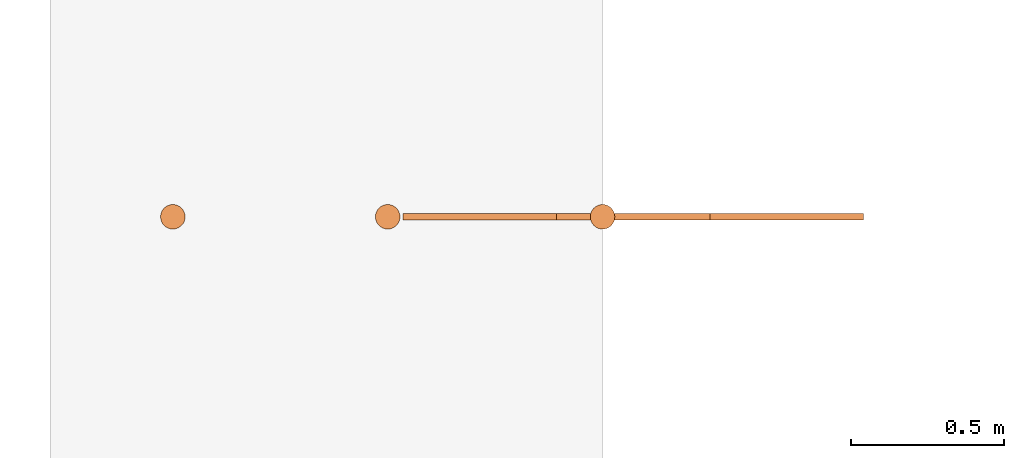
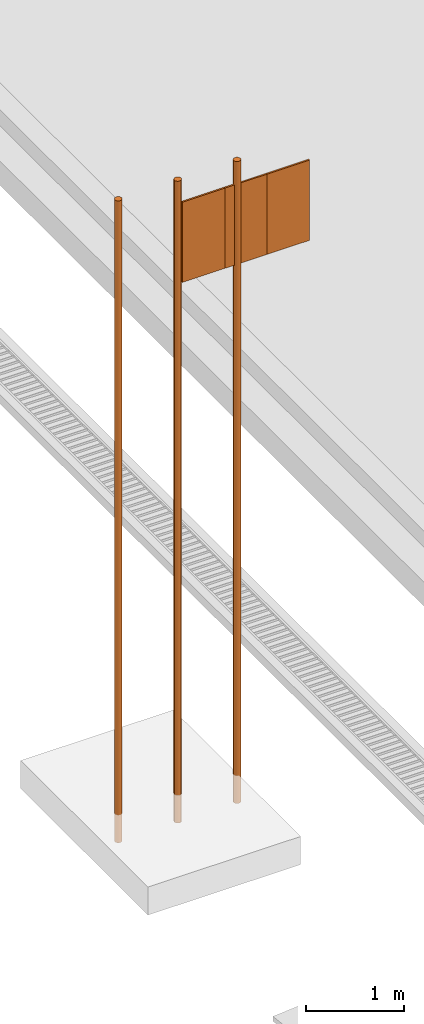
# One storey, part 87 of 90: 6 proxies.
"""IFC2X3 building model written with IfcOpenShell, lengths in metres."""

from ifc_helpers import new_model, si_unit, origin, origin_with_axes, place, context, subcontext, project, spatial, faceted_brep, element, save


model = new_model("IFC2X3")

# Units and contexts
model_context = context("Model", 3, precision=1e-05, world=origin_with_axes())
body_context = subcontext(model_context, "Body", "Model", "MODEL_VIEW")
ifc_project = project(units=[si_unit("LENGTHUNIT", "METRE"), si_unit("AREAUNIT", "SQUARE_METRE"), si_unit("VOLUMEUNIT", "CUBIC_METRE"), si_unit("PLANEANGLEUNIT", "RADIAN")], contexts=[model_context])

# Site, building, storey
site_placement = place(None, origin_with_axes())
site = spatial("IfcSite", under=ifc_project, at=site_placement, Name="Predio Los Mangos - Morales, San Martín", CompositionType="ELEMENT")
building_placement = place(site_placement, origin())
building = spatial("IfcBuilding", under=site, at=building_placement, Name="Hogar de Refugio Temporal", CompositionType="ELEMENT")
storey_placement = place(building_placement, origin())
storey = spatial("IfcBuildingStorey", under=building, at=storey_placement, Name="NIVEL 1 (NPT +0.00)", CompositionType="ELEMENT", Elevation=0.0)

# Proxies
proxy_1_placement = place(storey_placement, origin())
element("IfcBuildingElementProxy", 1, at=proxy_1_placement, inside=storey, Name="Cylinder", ObjectType="Elemento", context=body_context, shape_type="Brep", body=[
    faceted_brep([(40.6, 62.54, 0.0), (40.6, 62.54, 8.0), (40.6078, 62.5392, 8.0), (40.6078, 62.5392, 0.0), (40.6153, 62.537, 8.0), (40.6153, 62.537, 0.0), (40.6222, 62.5333, 8.0), (40.6222, 62.5333, 0.0), (40.6283, 62.5283, 8.0), (40.6283, 62.5283, 0.0), (40.6333, 62.5222, 8.0), (40.6333, 62.5222, 0.0), (40.637, 62.5153, 8.0), (40.637, 62.5153, 0.0), (40.6392, 62.5078, 8.0), (40.6392, 62.5078, 0.0), (40.64, 62.5, 8.0), (40.64, 62.5, 0.0), (40.6392, 62.4922, 8.0), (40.6392, 62.4922, 0.0), (40.637, 62.4847, 8.0), (40.637, 62.4847, 0.0), (40.6333, 62.4778, 8.0), (40.6333, 62.4778, 0.0), (40.6283, 62.4717, 8.0), (40.6283, 62.4717, 0.0), (40.6222, 62.4667, 8.0), (40.6222, 62.4667, 0.0), (40.6153, 62.463, 8.0), (40.6153, 62.463, 0.0), (40.6078, 62.4608, 8.0), (40.6078, 62.4608, 0.0), (40.6, 62.46, 8.0), (40.6, 62.46, 0.0), (40.5922, 62.4608, 8.0), (40.5922, 62.4608, 0.0), (40.5847, 62.463, 8.0), (40.5847, 62.463, 0.0), (40.5778, 62.4667, 8.0), (40.5778, 62.4667, 0.0), (40.5717, 62.4717, 8.0), (40.5717, 62.4717, 0.0), (40.5667, 62.4778, 8.0), (40.5667, 62.4778, 0.0), (40.563, 62.4847, 8.0), (40.563, 62.4847, 0.0), (40.5608, 62.4922, 8.0), (40.5608, 62.4922, 0.0), (40.56, 62.5, 8.0), (40.56, 62.5, 0.0), (40.5608, 62.5078, 8.0), (40.5608, 62.5078, 0.0), (40.563, 62.5153, 8.0), (40.563, 62.5153, 0.0), (40.5667, 62.5222, 8.0), (40.5667, 62.5222, 0.0), (40.5717, 62.5283, 8.0), (40.5717, 62.5283, 0.0), (40.5778, 62.5333, 8.0), (40.5778, 62.5333, 0.0), (40.5847, 62.537, 8.0), (40.5847, 62.537, 0.0), (40.5922, 62.5392, 8.0), (40.5922, 62.5392, 0.0)], [[[0, 1, 2, 3]], [[3, 2, 4, 5]], [[5, 4, 6, 7]], [[7, 6, 8, 9]], [[9, 8, 10, 11]], [[11, 10, 12, 13]], [[13, 12, 14, 15]], [[15, 14, 16, 17]], [[17, 16, 18, 19]], [[19, 18, 20, 21]], [[21, 20, 22, 23]], [[23, 22, 24, 25]], [[25, 24, 26, 27]], [[27, 26, 28, 29]], [[29, 28, 30, 31]], [[31, 30, 32, 33]], [[33, 32, 34, 35]], [[35, 34, 36, 37]], [[37, 36, 38, 39]], [[39, 38, 40, 41]], [[41, 40, 42, 43]], [[43, 42, 44, 45]], [[45, 44, 46, 47]], [[47, 46, 48, 49]], [[49, 48, 50, 51]], [[51, 50, 52, 53]], [[53, 52, 54, 55]], [[55, 54, 56, 57]], [[57, 56, 58, 59]], [[59, 58, 60, 61]], [[2, 1, 62, 60, 58, 56, 54, 52, 50, 48, 46, 44, 42, 40, 38, 36, 34, 32, 30, 28, 26, 24, 22, 20, 18, 16, 14, 12, 10, 8, 6, 4]], [[61, 60, 62, 63]], [[63, 62, 1, 0]], [[0, 3, 5, 7, 9, 11, 13, 15, 17, 19, 21, 23, 25, 27, 29, 31, 33, 35, 37, 39, 41, 43, 45, 47, 49, 51, 53, 55, 57, 59, 61, 63]]]),
])
proxy_2_placement = place(storey_placement, origin())
element("IfcBuildingElementProxy", 2, at=proxy_2_placement, inside=storey, Name="Cylinder", ObjectType="Elemento", context=body_context, shape_type="Brep", body=[
    faceted_brep([(41.3, 62.54, 0.0), (41.3, 62.54, 8.0), (41.3078, 62.5392, 8.0), (41.3078, 62.5392, 0.0), (41.3153, 62.537, 8.0), (41.3153, 62.537, 0.0), (41.3222, 62.5333, 8.0), (41.3222, 62.5333, 0.0), (41.3283, 62.5283, 8.0), (41.3283, 62.5283, 0.0), (41.3333, 62.5222, 8.0), (41.3333, 62.5222, 0.0), (41.337, 62.5153, 8.0), (41.337, 62.5153, 0.0), (41.3392, 62.5078, 8.0), (41.3392, 62.5078, 0.0), (41.34, 62.5, 8.0), (41.34, 62.5, 0.0), (41.3392, 62.4922, 8.0), (41.3392, 62.4922, 0.0), (41.337, 62.4847, 8.0), (41.337, 62.4847, 0.0), (41.3333, 62.4778, 8.0), (41.3333, 62.4778, 0.0), (41.3283, 62.4717, 8.0), (41.3283, 62.4717, 0.0), (41.3222, 62.4667, 8.0), (41.3222, 62.4667, 0.0), (41.3153, 62.463, 8.0), (41.3153, 62.463, 0.0), (41.3078, 62.4608, 8.0), (41.3078, 62.4608, 0.0), (41.3, 62.46, 8.0), (41.3, 62.46, 0.0), (41.2922, 62.4608, 8.0), (41.2922, 62.4608, 0.0), (41.2847, 62.463, 8.0), (41.2847, 62.463, 0.0), (41.2778, 62.4667, 8.0), (41.2778, 62.4667, 0.0), (41.2717, 62.4717, 8.0), (41.2717, 62.4717, 0.0), (41.2667, 62.4778, 8.0), (41.2667, 62.4778, 0.0), (41.263, 62.4847, 8.0), (41.263, 62.4847, 0.0), (41.2608, 62.4922, 8.0), (41.2608, 62.4922, 0.0), (41.26, 62.5, 8.0), (41.26, 62.5, 0.0), (41.2608, 62.5078, 8.0), (41.2608, 62.5078, 0.0), (41.263, 62.5153, 8.0), (41.263, 62.5153, 0.0), (41.2667, 62.5222, 8.0), (41.2667, 62.5222, 0.0), (41.2717, 62.5283, 8.0), (41.2717, 62.5283, 0.0), (41.2778, 62.5333, 8.0), (41.2778, 62.5333, 0.0), (41.2847, 62.537, 8.0), (41.2847, 62.537, 0.0), (41.2922, 62.5392, 8.0), (41.2922, 62.5392, 0.0)], [[[0, 1, 2, 3]], [[3, 2, 4, 5]], [[5, 4, 6, 7]], [[7, 6, 8, 9]], [[9, 8, 10, 11]], [[11, 10, 12, 13]], [[13, 12, 14, 15]], [[15, 14, 16, 17]], [[17, 16, 18, 19]], [[19, 18, 20, 21]], [[21, 20, 22, 23]], [[23, 22, 24, 25]], [[25, 24, 26, 27]], [[27, 26, 28, 29]], [[29, 28, 30, 31]], [[31, 30, 32, 33]], [[33, 32, 34, 35]], [[35, 34, 36, 37]], [[37, 36, 38, 39]], [[39, 38, 40, 41]], [[41, 40, 42, 43]], [[43, 42, 44, 45]], [[45, 44, 46, 47]], [[47, 46, 48, 49]], [[49, 48, 50, 51]], [[51, 50, 52, 53]], [[53, 52, 54, 55]], [[55, 54, 56, 57]], [[57, 56, 58, 59]], [[59, 58, 60, 61]], [[2, 1, 62, 60, 58, 56, 54, 52, 50, 48, 46, 44, 42, 40, 38, 36, 34, 32, 30, 28, 26, 24, 22, 20, 18, 16, 14, 12, 10, 8, 6, 4]], [[61, 60, 62, 63]], [[63, 62, 1, 0]], [[0, 3, 5, 7, 9, 11, 13, 15, 17, 19, 21, 23, 25, 27, 29, 31, 33, 35, 37, 39, 41, 43, 45, 47, 49, 51, 53, 55, 57, 59, 61, 63]]]),
])
proxy_3_placement = place(storey_placement, origin())
element("IfcBuildingElementProxy", 3, at=proxy_3_placement, inside=storey, Name="bandera", ObjectType="Asta de banderas", context=body_context, shape_type="Brep", body=[
    faceted_brep([(41.35, 62.49, 6.7), (41.35, 62.51, 6.7), (41.85, 62.51, 6.7), (41.85, 62.49, 6.7), (41.35, 62.49, 7.7), (41.85, 62.49, 7.7), (41.85, 62.51, 7.7), (41.35, 62.51, 7.7)], [[[0, 1, 2, 3]], [[4, 5, 6, 7]], [[0, 3, 5, 4]], [[3, 2, 6, 5]], [[2, 1, 7, 6]], [[1, 0, 4, 7]]]),
])
proxy_4_placement = place(storey_placement, origin())
element("IfcBuildingElementProxy", 4, at=proxy_4_placement, inside=storey, Name="bandera", ObjectType="Asta de banderas", context=body_context, shape_type="Brep", body=[
    faceted_brep([(41.85, 62.49, 6.7), (41.85, 62.51, 6.7), (42.35, 62.51, 6.7), (42.35, 62.49, 6.7), (41.85, 62.49, 7.7), (42.35, 62.49, 7.7), (42.35, 62.51, 7.7), (41.85, 62.51, 7.7)], [[[0, 1, 2, 3]], [[4, 5, 6, 7]], [[0, 3, 5, 4]], [[3, 2, 6, 5]], [[2, 1, 7, 6]], [[1, 0, 4, 7]]]),
])
proxy_5_placement = place(storey_placement, origin())
element("IfcBuildingElementProxy", 5, at=proxy_5_placement, inside=storey, Name="bandera", ObjectType="Asta de banderas", context=body_context, shape_type="Brep", body=[
    faceted_brep([(42.35, 62.49, 6.7), (42.35, 62.51, 6.7), (42.85, 62.51, 6.7), (42.85, 62.49, 6.7), (42.35, 62.49, 7.7), (42.85, 62.49, 7.7), (42.85, 62.51, 7.7), (42.35, 62.51, 7.7)], [[[0, 1, 2, 3]], [[4, 5, 6, 7]], [[0, 3, 5, 4]], [[3, 2, 6, 5]], [[2, 1, 7, 6]], [[1, 0, 4, 7]]]),
])
proxy_6_placement = place(storey_placement, origin())
element("IfcBuildingElementProxy", 6, at=proxy_6_placement, inside=storey, Name="Cylinder", ObjectType="Elemento", context=body_context, shape_type="Brep", body=[
    faceted_brep([(42.0, 62.54, 0.0), (42.0, 62.54, 8.0), (42.0078, 62.5392, 8.0), (42.0078, 62.5392, 0.0), (42.0153, 62.537, 8.0), (42.0153, 62.537, 0.0), (42.0222, 62.5333, 8.0), (42.0222, 62.5333, 0.0), (42.0283, 62.5283, 8.0), (42.0283, 62.5283, 0.0), (42.0333, 62.5222, 8.0), (42.0333, 62.5222, 0.0), (42.037, 62.5153, 8.0), (42.037, 62.5153, 0.0), (42.0392, 62.5078, 8.0), (42.0392, 62.5078, 0.0), (42.04, 62.5, 8.0), (42.04, 62.5, 0.0), (42.0392, 62.4922, 8.0), (42.0392, 62.4922, 0.0), (42.037, 62.4847, 8.0), (42.037, 62.4847, 0.0), (42.0333, 62.4778, 8.0), (42.0333, 62.4778, 0.0), (42.0283, 62.4717, 8.0), (42.0283, 62.4717, 0.0), (42.0222, 62.4667, 8.0), (42.0222, 62.4667, 0.0), (42.0153, 62.463, 8.0), (42.0153, 62.463, 0.0), (42.0078, 62.4608, 8.0), (42.0078, 62.4608, 0.0), (42.0, 62.46, 8.0), (42.0, 62.46, 0.0), (41.9922, 62.4608, 8.0), (41.9922, 62.4608, 0.0), (41.9847, 62.463, 8.0), (41.9847, 62.463, 0.0), (41.9778, 62.4667, 8.0), (41.9778, 62.4667, 0.0), (41.9717, 62.4717, 8.0), (41.9717, 62.4717, 0.0), (41.9667, 62.4778, 8.0), (41.9667, 62.4778, 0.0), (41.963, 62.4847, 8.0), (41.963, 62.4847, 0.0), (41.9608, 62.4922, 8.0), (41.9608, 62.4922, 0.0), (41.96, 62.5, 8.0), (41.96, 62.5, 0.0), (41.9608, 62.5078, 8.0), (41.9608, 62.5078, 0.0), (41.963, 62.5153, 8.0), (41.963, 62.5153, 0.0), (41.9667, 62.5222, 8.0), (41.9667, 62.5222, 0.0), (41.9717, 62.5283, 8.0), (41.9717, 62.5283, 0.0), (41.9778, 62.5333, 8.0), (41.9778, 62.5333, 0.0), (41.9847, 62.537, 8.0), (41.9847, 62.537, 0.0), (41.9922, 62.5392, 8.0), (41.9922, 62.5392, 0.0)], [[[0, 1, 2, 3]], [[3, 2, 4, 5]], [[5, 4, 6, 7]], [[7, 6, 8, 9]], [[9, 8, 10, 11]], [[11, 10, 12, 13]], [[13, 12, 14, 15]], [[15, 14, 16, 17]], [[17, 16, 18, 19]], [[19, 18, 20, 21]], [[21, 20, 22, 23]], [[23, 22, 24, 25]], [[25, 24, 26, 27]], [[27, 26, 28, 29]], [[29, 28, 30, 31]], [[31, 30, 32, 33]], [[33, 32, 34, 35]], [[35, 34, 36, 37]], [[37, 36, 38, 39]], [[39, 38, 40, 41]], [[41, 40, 42, 43]], [[43, 42, 44, 45]], [[45, 44, 46, 47]], [[47, 46, 48, 49]], [[49, 48, 50, 51]], [[51, 50, 52, 53]], [[53, 52, 54, 55]], [[55, 54, 56, 57]], [[57, 56, 58, 59]], [[59, 58, 60, 61]], [[2, 1, 62, 60, 58, 56, 54, 52, 50, 48, 46, 44, 42, 40, 38, 36, 34, 32, 30, 28, 26, 24, 22, 20, 18, 16, 14, 12, 10, 8, 6, 4]], [[61, 60, 62, 63]], [[63, 62, 1, 0]], [[0, 3, 5, 7, 9, 11, 13, 15, 17, 19, 21, 23, 25, 27, 29, 31, 33, 35, 37, 39, 41, 43, 45, 47, 49, 51, 53, 55, 57, 59, 61, 63]]]),
])

save(model, "model.ifc")
